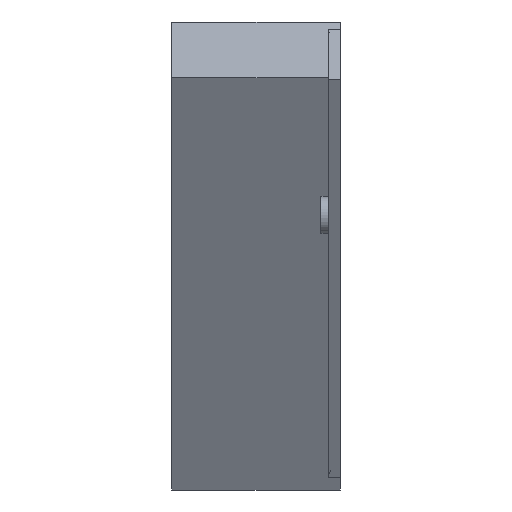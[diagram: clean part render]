
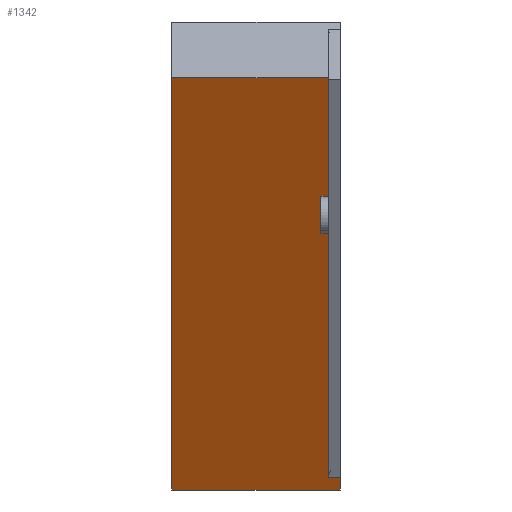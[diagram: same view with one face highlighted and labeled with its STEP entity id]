
A CAD part, left-side view. The second image highlights one B-rep face of the part: STEP entity #1342.
In plain terms, the highlighted planar face has unit normal (-0.868, 0, -0.496).
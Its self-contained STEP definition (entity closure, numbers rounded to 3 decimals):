
#57=PLANE('',#1435);
#125=FACE_OUTER_BOUND('',#201,.T.);
#201=EDGE_LOOP('',(#1076,#1077,#1078,#1079));
#308=LINE('',#1976,#483);
#334=LINE('',#2027,#509);
#335=LINE('',#2029,#510);
#336=LINE('',#2030,#511);
#483=VECTOR('',#1605,10.);
#509=VECTOR('',#1647,10.);
#510=VECTOR('',#1650,10.);
#511=VECTOR('',#1651,10.);
#653=VERTEX_POINT('',#1973);
#654=VERTEX_POINT('',#1975);
#670=VERTEX_POINT('',#2023);
#671=VERTEX_POINT('',#2025);
#800=EDGE_CURVE('',#653,#654,#308,.T.);
#826=EDGE_CURVE('',#670,#671,#334,.T.);
#827=EDGE_CURVE('',#653,#670,#335,.T.);
#828=EDGE_CURVE('',#654,#671,#336,.T.);
#1076=ORIENTED_EDGE('',*,*,#827,.T.);
#1077=ORIENTED_EDGE('',*,*,#826,.T.);
#1078=ORIENTED_EDGE('',*,*,#828,.F.);
#1079=ORIENTED_EDGE('',*,*,#800,.F.);
#1342=ADVANCED_FACE('',(#125),#57,.T.);
#1435=AXIS2_PLACEMENT_3D('',#2028,#1648,#1649);
#1605=DIRECTION('',(0.,1.,0.));
#1647=DIRECTION('',(0.,1.,0.));
#1648=DIRECTION('center_axis',(-0.868,0.,-0.496));
#1649=DIRECTION('ref_axis',(-0.496,0.,0.868));
#1650=DIRECTION('',(-0.496,0.,0.868));
#1651=DIRECTION('',(-0.496,0.,0.868));
#1973=CARTESIAN_POINT('',(-51.656,0.,-57.149));
#1975=CARTESIAN_POINT('',(-51.656,35.,-57.149));
#1976=CARTESIAN_POINT('',(-51.656,0.,-57.149));
#2023=CARTESIAN_POINT('',(-100.604,0.,28.586));
#2025=CARTESIAN_POINT('',(-100.604,35.,28.586));
#2027=CARTESIAN_POINT('',(-100.604,0.,28.586));
#2028=CARTESIAN_POINT('Origin',(-51.656,0.,-57.149));
#2029=CARTESIAN_POINT('',(-51.656,0.,-57.149));
#2030=CARTESIAN_POINT('',(-51.656,35.,-57.149));
